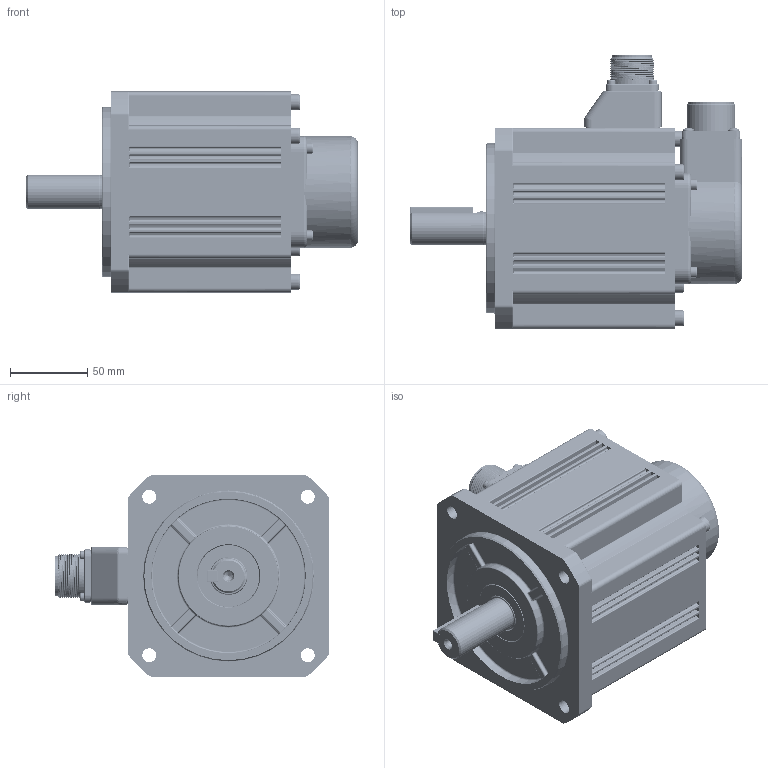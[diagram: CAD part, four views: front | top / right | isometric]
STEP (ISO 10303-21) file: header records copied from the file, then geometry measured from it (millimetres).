
FILE_DESCRIPTION((''),'2;1');
FILE_NAME('11101-01367_ASM','2024-11-12T16:19:48',('0109276'),(''),'CREO PARAMETRIC BY PTC INC, 2019080','CREO PARAMETRIC BY PTC INC, 2019080','');
FILE_SCHEMA(('CONFIG_CONTROL_DESIGN'));
Products named in the file (125): 80040370_AF0; 66670024_AF0; 77840007_AF0; 77840007_AF1; 20CDZZJ-220V_AF0_ASM; 66670024_AF1; 77840007_AF2; 77840007_AF3; 20CDZZJ-220V_AF1_ASM; 66670024_AF2; 77840007_AF4; 77840007_AF5; 20CDZZJ-220V_AF2_ASM; 66670024_AF3; 77840007_AF6; 77840007_AF7; 20CDZZJ-220V_AF3_ASM; 66670024_AF4; 77840007_AF8; 77840007_AF9; 20CDZZJ-220V_AF4_ASM; 66670024_AF5; 77840007_AF10; 77840007_AF11; 20CDZZJ-220V_AF5_ASM; 66670024_AF6; 77840007_AF12; 77840007_AF13; 20CDZZJ-220V_AF6_ASM; 66670024_AF7; 77840007_AF14; 77840007_AF15; 20CDZZJ-220V_AF7_ASM; 66670024_AF8; 77840007_AF16; 77840007_AF17; 20CDZZJ-220V_AF8_ASM; 66670024_AF9; 77840007_AF18; 77840007_AF19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
Assembly tree (127 placements, depth 4):
  11101-01367_ASM
    12112-01184_AF0_ASM
      80040370_AF0
      20CDZZJ-220V_AF0_ASM
        66670024_AF0
        77840007_AF0
        77840007_AF1
      20CDZZJ-220V_AF1_ASM
        66670024_AF1
        77840007_AF2
        77840007_AF3
      20CDZZJ-220V_AF2_ASM
        66670024_AF2
        77840007_AF4
        77840007_AF5
      20CDZZJ-220V_AF3_ASM
        66670024_AF3
        77840007_AF6
        77840007_AF7
      20CDZZJ-220V_AF4_ASM
        66670024_AF4
        77840007_AF8
        77840007_AF9
      20CDZZJ-220V_AF5_ASM
        66670024_AF5
        77840007_AF10
        77840007_AF11
      20CDZZJ-220V_AF6_ASM
        66670024_AF6
        77840007_AF12
        77840007_AF13
      20CDZZJ-220V_AF7_ASM
        66670024_AF7
        77840007_AF14
        77840007_AF15
      20CDZZJ-220V_AF8_ASM
        66670024_AF8
        77840007_AF16
        77840007_AF17
      20CDZZJ-220V_AF9_ASM
        66670024_AF9
        77840007_AF18
        77840007_AF19
      20CDZZJ-220V_AF10_ASM
        66670024_AF10
        77840007_AF20
        77840007_AF21
      20CDZZJ-220V_AF11_ASM
        66670024_AF11
        77840007_AF22
        77840007_AF23
      PCB_PM2301_CV1_AF0
      QBX-20C-2_AF0
      QBX-20C-2_AF1
      QBX-20C-2_AF2
      QBX-20C-2_AF3
      QBX-20C-2_AF4
      QBX-20C-2_AF5
      QBX-20C-2_AF6
      QBX-20C-2_AF7
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Bounding box: 214.7 x 177.2 x 130 mm (x, y, z)
Volume: 642693.2 mm3; surface area: 272944.6 mm2
Topology: 27 solids, 49 shells, 5741 faces, 15571 edges, 10083 vertices
Faces by surface type: cylinder 2068, plane 2006, extrusion 812, bspline 393, torus 258, cone 144, sphere 60
Entity records: 273846 total; most frequent: CARTESIAN_POINT 142023, ORIENTED_EDGE 29186, DIRECTION 22860, EDGE_CURVE 14631, VERTEX_POINT 9522, VECTOR 8760, LINE 7948, AXIS2_PLACEMENT_3D 7050
